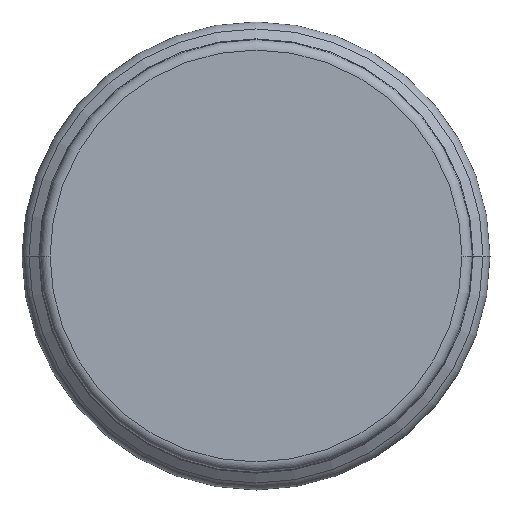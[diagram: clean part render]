
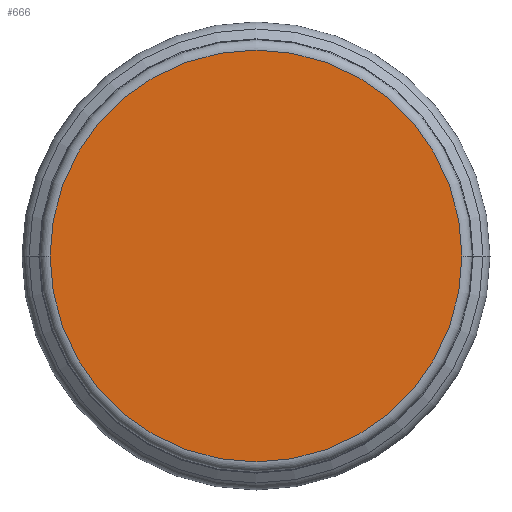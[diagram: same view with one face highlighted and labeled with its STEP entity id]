
A CAD part, left-side view. The second image highlights one B-rep face of the part: STEP entity #666.
In plain terms, the highlighted planar face has unit normal (-1, 0, 0).
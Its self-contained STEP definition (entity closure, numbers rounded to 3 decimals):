
#243=CARTESIAN_POINT('',(0.,0.,0.));
#244=DIRECTION('',(-1.,0.,0.));
#245=DIRECTION('',(0.,1.,0.));
#246=AXIS2_PLACEMENT_3D('',#243,#244,#245);
#251=CARTESIAN_POINT('',(0.,0.,0.));
#252=DIRECTION('',(1.,0.,0.));
#253=DIRECTION('',(0.,1.,0.));
#254=AXIS2_PLACEMENT_3D('',#251,#252,#253);
#410=CARTESIAN_POINT('',(0.,40.25,0.));
#412=VERTEX_POINT('',#410);
#416=CARTESIAN_POINT('',(0.,-40.25,0.));
#418=VERTEX_POINT('',#416);
#657=CARTESIAN_POINT('',(0.,0.,0.));
#658=DIRECTION('',(1.,0.,0.));
#659=DIRECTION('',(0.,-1.,0.));
#660=AXIS2_PLACEMENT_3D('',#657,#658,#659);
#661=PLANE('',#660);
#662=ORIENTED_EDGE('',*,*,#650,.F.);
#663=ORIENTED_EDGE('',*,*,#639,.T.);
#664=EDGE_LOOP('',(#662,#663));
#665=FACE_OUTER_BOUND('',#664,.F.);
#247=CIRCLE('',#246,40.25);
#255=CIRCLE('',#254,40.25);
#639=EDGE_CURVE('',#412,#418,#255,.T.);
#650=EDGE_CURVE('',#412,#418,#247,.T.);
#666=ADVANCED_FACE('',(#665),#661,.F.);
